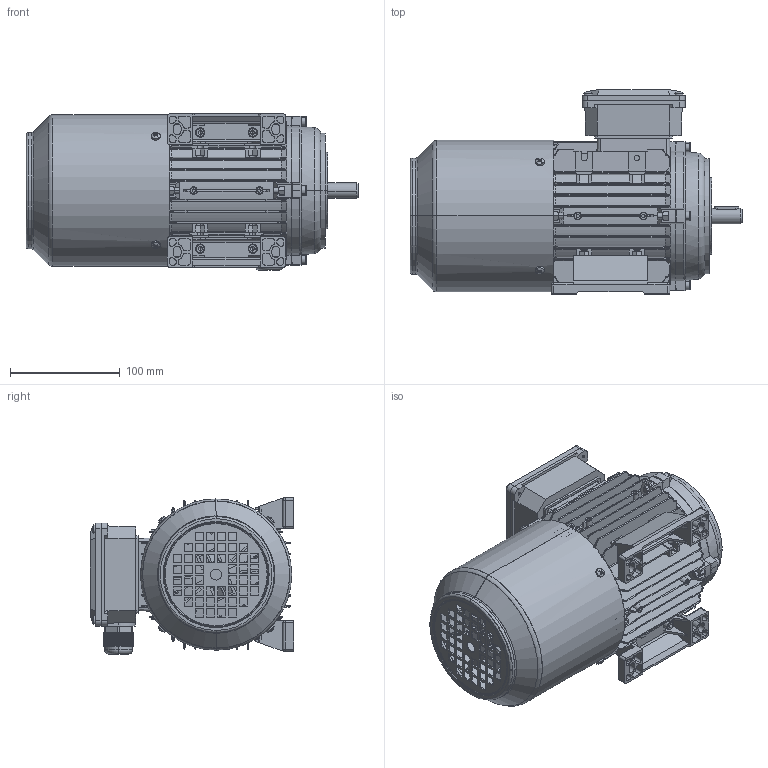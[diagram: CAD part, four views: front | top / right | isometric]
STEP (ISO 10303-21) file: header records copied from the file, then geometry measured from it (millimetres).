
FILE_DESCRIPTION (( 'STEP AP203' ), '1' );
FILE_NAME ('TB71 B34（风罩不带手柄孔）.STEP', '2021-10-21T01:56:27', ( '' ), ( '' ), 'SwSTEP 2.0', 'SolidWorks 2014', '' );
FILE_SCHEMA (( 'CONFIG_CONTROL_DESIGN' ));
Length unit declared in the file: millimetre
Products named in the file (17): TAN71 B14裔; Plain parallel keys_GB_CONNECTING_PIECE_KEYS_CSK 5X22; Hexagon nuts grade C GB_GB_FASTENER_NUT_SNC1 M5-N; TB71瑞欶(祥湍忒梟謂); TB71蛌粣; Hexagon socket head cap screws GB_GB_FASTENER_SCREWS_HSHCS M5X20-N; MS63-71 陔諉盄碟釱; TB71 綴裔; TAN71 儂褲; Hexagon socket head cap screws GB_GB_FASTENER_SCREWS_HSHCS M5X25-N; TB71 B34（风罩不带手柄孔）; 80-100堤盄蹟杶; Hexagon socket head cap screws GB_GB_FASTENER_SCREWS_HSHCS M5X16-N; MS63-71 陔諉盄碟裔; 71怢宒瑞珔; TAN71 菁褐; Cross recessed thread forming screws GB_GB_CROSS_SCREWS_TYPE138 M4X10-N
Assembly tree (45 placements, depth 2):
  TB71 B34（风罩不带手柄孔）
    TAN71 儂褲
    TAN71 菁褐  x2
    TB71蛌粣
    80-100堤盄蹟杶
    TAN71 B14裔
    MS63-71 陔諉盄碟釱
    MS63-71 陔諉盄碟裔
    Hexagon nuts grade C GB_GB_FASTENER_NUT_SNC1 M5-N  x12
    Hexagon socket head cap screws GB_GB_FASTENER_SCREWS_HSHCS M5X25-N  x8
    Cross recessed thread forming screws GB_GB_CROSS_SCREWS_TYPE138 M4X10-N  x8
    Hexagon socket head cap screws GB_GB_FASTENER_SCREWS_HSHCS M5X20-N
    Hexagon socket head cap screws GB_GB_FASTENER_SCREWS_HSHCS M5X16-N  x4
    Plain parallel keys_GB_CONNECTING_PIECE_KEYS_CSK 5X22
    TB71 綴裔
    71怢宒瑞珔
    TB71瑞欶(祥湍忒梟謂)
Bounding box: 303 x 186 x 142.6 mm (x, y, z)
Volume: 694478.9 mm3; surface area: 590363.7 mm2
Topology: 45 solids, 45 shells, 4593 faces, 11885 edges, 7410 vertices
Faces by surface type: plane 2226, cylinder 1219, bspline 522, cone 390, torus 200, sphere 36
Entity records: 135819 total; most frequent: CARTESIAN_POINT 42748, ORIENTED_EDGE 20104, DIRECTION 17497, EDGE_CURVE 10052, VERTEX_POINT 6296, AXIS2_PLACEMENT_3D 6158, LINE 5181, VECTOR 5181
